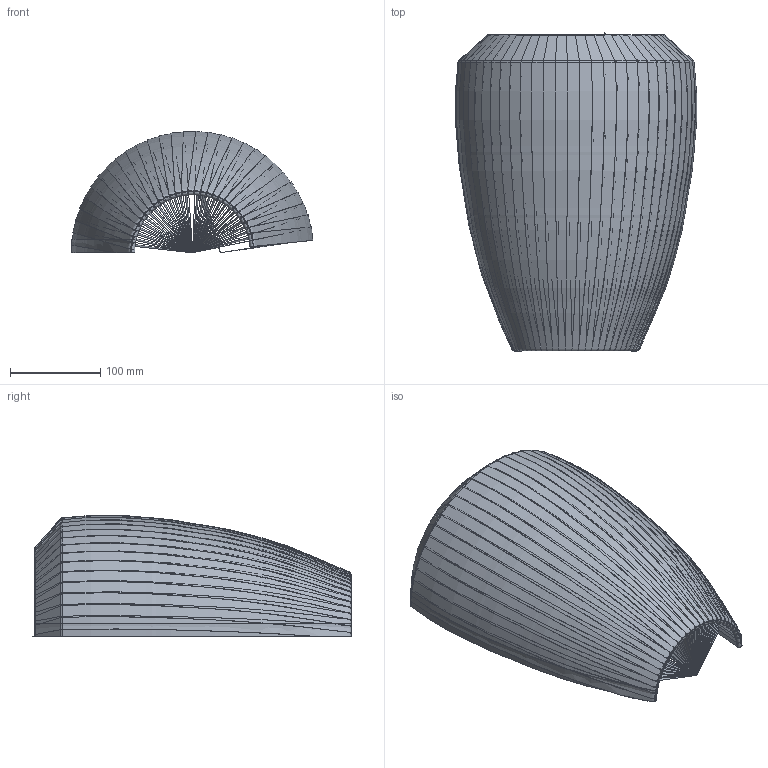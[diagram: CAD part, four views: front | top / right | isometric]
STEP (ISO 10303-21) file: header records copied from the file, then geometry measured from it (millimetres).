
FILE_DESCRIPTION (( 'STEP AP203' ), '1' );
FILE_NAME ('APBEL035E14XXXX-PER 3D.STEP', '2025-06-25T10:04:27', ( '' ), ( '' ), 'SwSTEP 2.0', 'SolidWorks 2024', '' );
FILE_SCHEMA (( 'CONFIG_CONTROL_DESIGN' ));
Length unit declared in the file: millimetre
Products named in the file (2): PAPBEL035E14; APBEL035E14XXXX-PER 3D
Assembly tree (1 placements, depth 2):
  APBEL035E14XXXX-PER 3D
    PAPBEL035E14
Bounding box: 267.95 x 352.94 x 135 mm (x, y, z)
Volume: 129908.3 mm3; surface area: 676188.9 mm2
Topology: 30 solids, 30 shells, 481 faces, 1266 edges, 844 vertices
Faces by surface type: cylinder 240, plane 181, bspline 60
Entity records: 21271 total; most frequent: CARTESIAN_POINT 9048, ORIENTED_EDGE 2532, DIRECTION 2466, EDGE_CURVE 1266, AXIS2_PLACEMENT_3D 901, VERTEX_POINT 844, VECTOR 664, LINE 664
